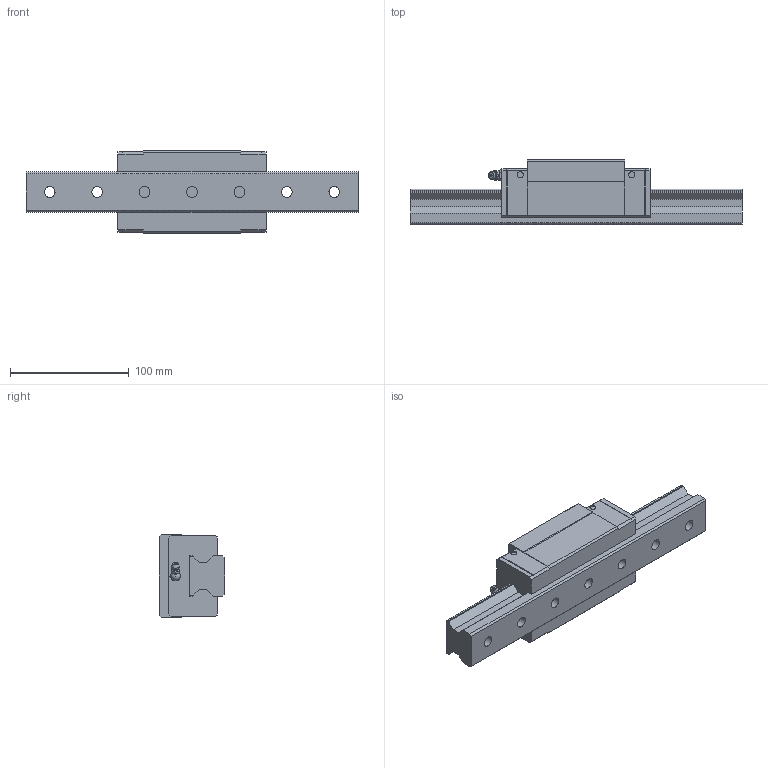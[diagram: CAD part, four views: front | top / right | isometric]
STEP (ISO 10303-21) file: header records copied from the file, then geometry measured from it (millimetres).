
FILE_DESCRIPTION(/* description */ ('STEP AP203'),/* implementation_level */ '2;1');
FILE_NAME(/* name */ 'SRG35R1SS-280LH_G20_0_B-M6F_77-5_0_0_0_1',/* time_stamp */ '2024-05-23T10:21:39+02:00',/* author */ ('License CC BY-ND 4.0'),/* organization */ ('CADENAS'),/* preprocessor_version */ 'ST-DEVELOPER v19.3',/* originating_system */ 'PARTsolutions',/* authorisation */ ' ');
FILE_SCHEMA (('CONFIG_CONTROL_DESIGN'));
Length unit declared in the file: millimetre
Products named in the file (4): SRG35R1SS-280LH_G20_0_B-M6F_77-5_0_0_0_1; SRG35R28020 Track-1; SRG35RSSB-M6F1 Slide25-55; SRG-B-M6F_grease_nipple_joint
Assembly tree (3 placements, depth 2):
  SRG35R1SS-280LH_G20_0_B-M6F_77-5_0_0_0_1
    SRG35R28020 Track-1
    SRG35RSSB-M6F1 Slide25-55
    SRG-B-M6F_grease_nipple_joint
Bounding box: 280 x 55 x 70 mm (x, y, z)
Volume: 537151.8 mm3; surface area: 89687.7 mm2
Topology: 3 solids, 3 shells, 201 faces, 512 edges, 331 vertices
Faces by surface type: plane 137, cylinder 34, cone 25, sphere 3, torus 2
Full cylindrical faces by diameter (mm): 4.917 x2, 5.2 x4, 6 x1, 6.647 x6, 8 x1, 9 x7, 10.2 x2, 14 x7
Entity records: 5811 total; most frequent: CARTESIAN_POINT 1074, DIRECTION 926, ORIENTED_EDGE 888, EDGE_CURVE 444, VERTEX_POINT 325, LINE 324, VECTOR 324, AXIS2_PLACEMENT_3D 301
